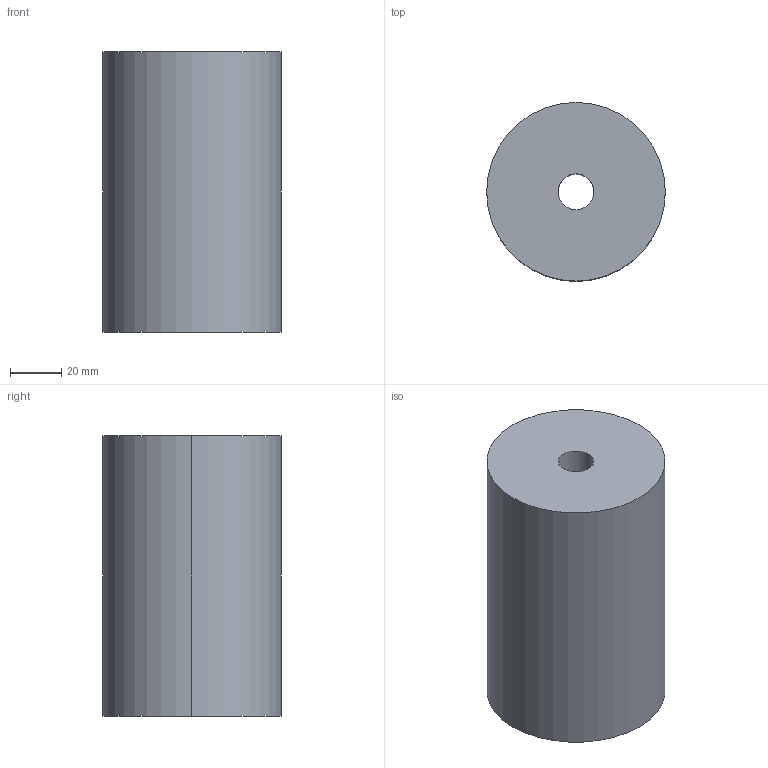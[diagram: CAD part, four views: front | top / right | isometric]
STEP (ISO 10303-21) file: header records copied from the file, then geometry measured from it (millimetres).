
FILE_DESCRIPTION(/* description */ (''),/* implementation_level */ '2;1');
FILE_NAME(/* name */ '3d_e70-110_03727_r00.stp',/* time_stamp */ '2011-01-10T14:15:49+09:00',/* author */ ('MISUMI'),/* organization */ (''),/* preprocessor_version */ 'ST-DEVELOPER v11',/* originating_system */ 'UGS - NX 5.0',/* authorisation */ '');
FILE_SCHEMA (('CONFIG_CONTROL_DESIGN'));
Length unit declared in the file: millimetre
Products named in the file (1): 3d_e70-110_03727_r00
Bounding box: 70 x 70 x 110 mm (x, y, z)
Volume: 406396.4 mm3; surface area: 36417.3 mm2
Topology: 1 solids, 1 shells, 6 faces, 12 edges, 8 vertices
Faces by surface type: cylinder 4, plane 2
Entity records: 254 total; most frequent: DIRECTION 34, CARTESIAN_POINT 27, ORIENTED_EDGE 24, AXIS2_PLACEMENT_3D 15, EDGE_CURVE 12, EDGE_LOOP 8, VERTEX_POINT 8, CIRCLE 8
